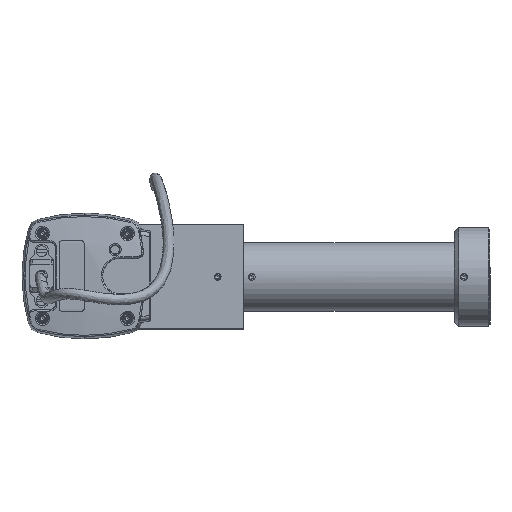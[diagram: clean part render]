
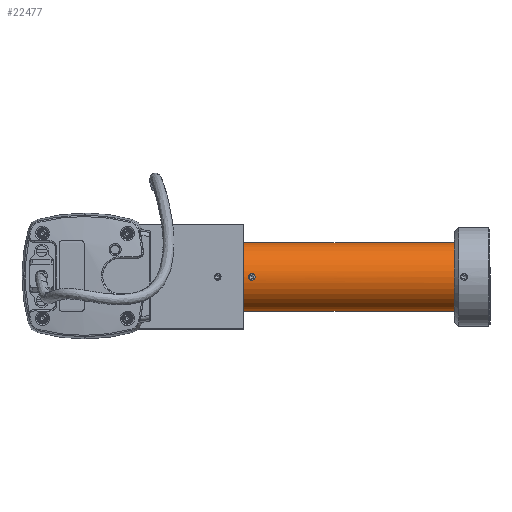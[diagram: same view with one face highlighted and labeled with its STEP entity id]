
A CAD part, top view. The second image highlights one B-rep face of the part: STEP entity #22477.
In plain terms, the highlighted cylindrical face has radius 12.5 mm (diameter 25 mm), a full revolution.
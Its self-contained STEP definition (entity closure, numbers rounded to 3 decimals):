
#433=B_SPLINE_CURVE_WITH_KNOTS('',3,(#33401,#33402,#33403,#33404),
 .UNSPECIFIED.,.F.,.F.,(4,4),(0.287,0.318),
 .UNSPECIFIED.);
#434=B_SPLINE_CURVE_WITH_KNOTS('',3,(#33408,#33409,#33410,#33411,#33412,
#33413,#33414,#33415,#33416,#33417,#33418),.UNSPECIFIED.,.F.,.F.,(4,2,3,
2,4),(0.657,0.692,0.739,0.786,
0.821),.UNSPECIFIED.);
#435=B_SPLINE_CURVE_WITH_KNOTS('',3,(#33421,#33422,#33423,#33424,#33425,
#33426,#33427,#33428,#33429,#33430),.UNSPECIFIED.,.F.,.F.,(4,2,2,2,4),(0.318,
0.322,0.369,0.416,0.452),
 .UNSPECIFIED.);
#436=B_SPLINE_CURVE_WITH_KNOTS('',3,(#33489,#33490,#33491,#33492,#33493,
#33494,#33495,#33496),.UNSPECIFIED.,.F.,.F.,(4,2,2,4),(0.556,
0.602,0.649,0.661),.UNSPECIFIED.);
#437=B_SPLINE_CURVE_WITH_KNOTS('',3,(#33497,#33498,#33499,#33500,#33501,
#33502,#33503,#33504),.UNSPECIFIED.,.F.,.F.,(4,2,2,4),(0.451,
0.463,0.51,0.556),.UNSPECIFIED.);
#438=B_SPLINE_CURVE_WITH_KNOTS('',3,(#33507,#33508,#33509,#33510,#33511,
#33512,#33513,#33514),.UNSPECIFIED.,.F.,.F.,(4,2,2,4),(0.185,
0.232,0.278,0.29),.UNSPECIFIED.);
#439=B_SPLINE_CURVE_WITH_KNOTS('',3,(#33515,#33516,#33517,#33518,#33519,
#33520,#33521,#33522),.UNSPECIFIED.,.F.,.F.,(4,2,2,4),(0.822,
0.834,0.881,0.927),.UNSPECIFIED.);
#1192=FACE_BOUND('',#3750,.T.);
#1951=CYLINDRICAL_SURFACE('',#24008,12.5);
#2466=FACE_OUTER_BOUND('',#3749,.T.);
#3749=EDGE_LOOP('',(#15508,#15509,#15510,#15511,#15512,#15513));
#3750=EDGE_LOOP('',(#15514,#15515,#15516,#15517,#15518,#15519,#15520));
#5081=CIRCLE('',#23953,12.5);
#5082=CIRCLE('',#23954,12.5);
#5112=CIRCLE('',#24009,12.5);
#5113=CIRCLE('',#24010,12.5);
#6203=LINE('',#33975,#7572);
#7572=VECTOR('',#27148,12.5);
#8976=VERTEX_POINT('',#33398);
#8977=VERTEX_POINT('',#33400);
#8978=VERTEX_POINT('',#33405);
#8979=VERTEX_POINT('',#33407);
#8980=VERTEX_POINT('',#33419);
#8995=VERTEX_POINT('',#33488);
#8996=VERTEX_POINT('',#33506);
#9070=VERTEX_POINT('',#33758);
#9071=VERTEX_POINT('',#33759);
#9106=VERTEX_POINT('',#33974);
#9107=VERTEX_POINT('',#33976);
#11361=EDGE_CURVE('',#8977,#8976,#433,.T.);
#11363=EDGE_CURVE('',#8979,#8978,#434,.T.);
#11365=EDGE_CURVE('',#8976,#8980,#435,.T.);
#11386=EDGE_CURVE('',#8995,#8979,#436,.T.);
#11387=EDGE_CURVE('',#8980,#8995,#437,.T.);
#11388=EDGE_CURVE('',#8996,#8977,#438,.T.);
#11389=EDGE_CURVE('',#8978,#8996,#439,.T.);
#11507=EDGE_CURVE('',#9070,#9071,#5081,.T.);
#11508=EDGE_CURVE('',#9071,#9070,#5082,.T.);
#11557=EDGE_CURVE('',#9071,#9106,#6203,.T.);
#11558=EDGE_CURVE('',#9107,#9106,#5112,.T.);
#11559=EDGE_CURVE('',#9106,#9107,#5113,.T.);
#15508=ORIENTED_EDGE('',*,*,#11507,.F.);
#15509=ORIENTED_EDGE('',*,*,#11508,.F.);
#15510=ORIENTED_EDGE('',*,*,#11557,.T.);
#15511=ORIENTED_EDGE('',*,*,#11558,.F.);
#15512=ORIENTED_EDGE('',*,*,#11559,.F.);
#15513=ORIENTED_EDGE('',*,*,#11557,.F.);
#15514=ORIENTED_EDGE('',*,*,#11363,.T.);
#15515=ORIENTED_EDGE('',*,*,#11389,.T.);
#15516=ORIENTED_EDGE('',*,*,#11388,.T.);
#15517=ORIENTED_EDGE('',*,*,#11361,.T.);
#15518=ORIENTED_EDGE('',*,*,#11365,.T.);
#15519=ORIENTED_EDGE('',*,*,#11387,.T.);
#15520=ORIENTED_EDGE('',*,*,#11386,.T.);
#22477=ADVANCED_FACE('',(#2466,#1192),#1951,.T.);
#23953=AXIS2_PLACEMENT_3D('',#33760,#27023,#27024);
#23954=AXIS2_PLACEMENT_3D('',#33761,#27025,#27026);
#24008=AXIS2_PLACEMENT_3D('',#33973,#27146,#27147);
#24009=AXIS2_PLACEMENT_3D('',#33977,#27149,#27150);
#24010=AXIS2_PLACEMENT_3D('',#33978,#27151,#27152);
#27023=DIRECTION('center_axis',(1.,0.,0.));
#27024=DIRECTION('ref_axis',(0.,0.,
1.));
#27025=DIRECTION('center_axis',(1.,0.,0.));
#27026=DIRECTION('ref_axis',(0.,0.,
1.));
#27146=DIRECTION('center_axis',(1.,0.,0.));
#27147=DIRECTION('ref_axis',(0.,0.,
1.));
#27148=DIRECTION('',(-1.,0.,0.));
#27149=DIRECTION('center_axis',(-1.,0.,0.));
#27150=DIRECTION('ref_axis',(0.,0.,
1.));
#27151=DIRECTION('center_axis',(-1.,0.,0.));
#27152=DIRECTION('ref_axis',(0.,0.,
1.));
#33398=CARTESIAN_POINT('',(-39.347,19.038,-39.785));
#33400=CARTESIAN_POINT('',(-39.611,18.856,-39.77));
#33401=CARTESIAN_POINT('Ctrl Pts',(-39.611,18.856,-39.77));
#33402=CARTESIAN_POINT('Ctrl Pts',(-39.533,18.927,-39.775));
#33403=CARTESIAN_POINT('Ctrl Pts',(-39.444,18.99,-39.78));
#33404=CARTESIAN_POINT('Ctrl Pts',(-39.347,19.038,-39.785));
#33405=CARTESIAN_POINT('',(-39.611,16.954,-39.77));
#33407=CARTESIAN_POINT('',(-38.053,16.954,-39.77));
#33408=CARTESIAN_POINT('Ctrl Pts',(-38.053,16.954,-39.77));
#33409=CARTESIAN_POINT('Ctrl Pts',(-38.143,16.872,-39.776));
#33410=CARTESIAN_POINT('Ctrl Pts',(-38.249,16.801,-39.782));
#33411=CARTESIAN_POINT('Ctrl Pts',(-38.513,16.683,-39.793));
#33412=CARTESIAN_POINT('Ctrl Pts',(-38.677,16.649,-39.797));
#33413=CARTESIAN_POINT('Ctrl Pts',(-38.832,16.649,-39.797));
#33414=CARTESIAN_POINT('Ctrl Pts',(-38.989,16.649,-39.797));
#33415=CARTESIAN_POINT('Ctrl Pts',(-39.155,16.684,-39.793));
#33416=CARTESIAN_POINT('Ctrl Pts',(-39.418,16.804,-39.782));
#33417=CARTESIAN_POINT('Ctrl Pts',(-39.522,16.874,-39.776));
#33418=CARTESIAN_POINT('Ctrl Pts',(-39.611,16.954,-39.77));
#33419=CARTESIAN_POINT('',(-38.053,18.856,-39.77));
#33421=CARTESIAN_POINT('Ctrl Pts',(-39.347,19.038,-39.785));
#33422=CARTESIAN_POINT('Ctrl Pts',(-39.334,19.045,-39.785));
#33423=CARTESIAN_POINT('Ctrl Pts',(-39.32,19.052,-39.786));
#33424=CARTESIAN_POINT('Ctrl Pts',(-39.155,19.127,-39.793));
#33425=CARTESIAN_POINT('Ctrl Pts',(-38.989,19.162,-39.797));
#33426=CARTESIAN_POINT('Ctrl Pts',(-38.677,19.162,-39.797));
#33427=CARTESIAN_POINT('Ctrl Pts',(-38.513,19.128,-39.793));
#33428=CARTESIAN_POINT('Ctrl Pts',(-38.249,19.009,-39.782));
#33429=CARTESIAN_POINT('Ctrl Pts',(-38.143,18.938,-39.776));
#33430=CARTESIAN_POINT('Ctrl Pts',(-38.053,18.856,-39.77));
#33488=CARTESIAN_POINT('',(-37.603,17.905,-39.733));
#33489=CARTESIAN_POINT('Ctrl Pts',(-37.603,17.905,-39.733));
#33490=CARTESIAN_POINT('Ctrl Pts',(-37.603,17.751,-39.733));
#33491=CARTESIAN_POINT('Ctrl Pts',(-37.633,17.586,-39.737));
#33492=CARTESIAN_POINT('Ctrl Pts',(-37.759,17.283,-39.748));
#33493=CARTESIAN_POINT('Ctrl Pts',(-37.854,17.145,-39.756));
#33494=CARTESIAN_POINT('Ctrl Pts',(-37.991,17.008,-39.766));
#33495=CARTESIAN_POINT('Ctrl Pts',(-38.021,16.98,-39.768));
#33496=CARTESIAN_POINT('Ctrl Pts',(-38.053,16.954,-39.77));
#33497=CARTESIAN_POINT('Ctrl Pts',(-38.053,18.856,-39.77));
#33498=CARTESIAN_POINT('Ctrl Pts',(-38.021,18.83,-39.768));
#33499=CARTESIAN_POINT('Ctrl Pts',(-37.991,18.803,-39.766));
#33500=CARTESIAN_POINT('Ctrl Pts',(-37.854,18.666,-39.756));
#33501=CARTESIAN_POINT('Ctrl Pts',(-37.759,18.528,-39.748));
#33502=CARTESIAN_POINT('Ctrl Pts',(-37.633,18.225,-39.737));
#33503=CARTESIAN_POINT('Ctrl Pts',(-37.603,18.06,-39.733));
#33504=CARTESIAN_POINT('Ctrl Pts',(-37.603,17.905,-39.733));
#33506=CARTESIAN_POINT('',(-40.062,17.905,-39.733));
#33507=CARTESIAN_POINT('Ctrl Pts',(-40.062,17.905,-39.733));
#33508=CARTESIAN_POINT('Ctrl Pts',(-40.062,18.06,-39.733));
#33509=CARTESIAN_POINT('Ctrl Pts',(-40.031,18.225,-39.737));
#33510=CARTESIAN_POINT('Ctrl Pts',(-39.905,18.528,-39.748));
#33511=CARTESIAN_POINT('Ctrl Pts',(-39.811,18.666,-39.756));
#33512=CARTESIAN_POINT('Ctrl Pts',(-39.673,18.803,-39.766));
#33513=CARTESIAN_POINT('Ctrl Pts',(-39.643,18.83,-39.768));
#33514=CARTESIAN_POINT('Ctrl Pts',(-39.611,18.856,-39.77));
#33515=CARTESIAN_POINT('Ctrl Pts',(-39.611,16.954,-39.77));
#33516=CARTESIAN_POINT('Ctrl Pts',(-39.643,16.98,-39.768));
#33517=CARTESIAN_POINT('Ctrl Pts',(-39.673,17.008,-39.766));
#33518=CARTESIAN_POINT('Ctrl Pts',(-39.811,17.145,-39.756));
#33519=CARTESIAN_POINT('Ctrl Pts',(-39.905,17.283,-39.748));
#33520=CARTESIAN_POINT('Ctrl Pts',(-40.031,17.586,-39.737));
#33521=CARTESIAN_POINT('Ctrl Pts',(-40.062,17.751,-39.733));
#33522=CARTESIAN_POINT('Ctrl Pts',(-40.062,17.905,-39.733));
#33758=CARTESIAN_POINT('',(35.168,17.905,-39.733));
#33759=CARTESIAN_POINT('',(35.168,17.905,-64.733));
#33760=CARTESIAN_POINT('Origin',(35.168,17.905,-52.233));
#33761=CARTESIAN_POINT('Origin',(35.168,17.905,-52.233));
#33973=CARTESIAN_POINT('Origin',(-40.582,17.905,-52.233));
#33974=CARTESIAN_POINT('',(-41.832,17.905,-64.733));
#33975=CARTESIAN_POINT('',(-40.582,17.905,-64.733));
#33976=CARTESIAN_POINT('',(-41.832,17.905,-39.733));
#33977=CARTESIAN_POINT('Origin',(-41.832,17.905,-52.233));
#33978=CARTESIAN_POINT('Origin',(-41.832,17.905,-52.233));
